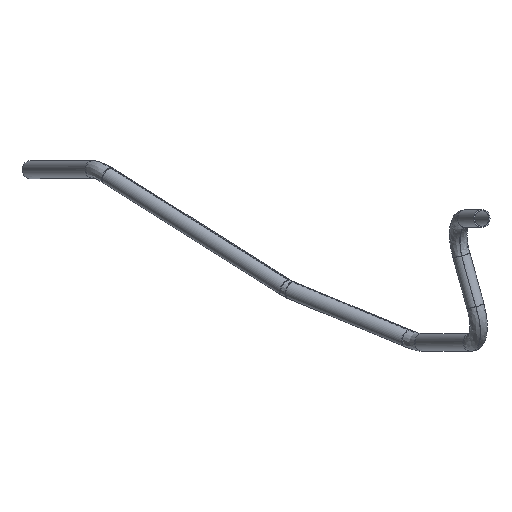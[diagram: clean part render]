
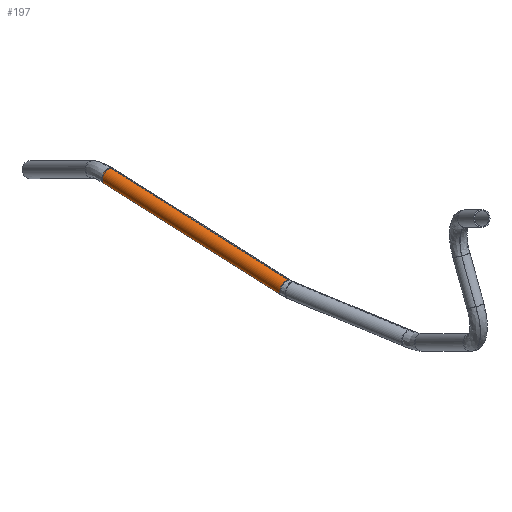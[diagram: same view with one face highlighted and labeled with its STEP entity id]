
A CAD part, top view. The second image highlights one B-rep face of the part: STEP entity #197.
In plain terms, the highlighted cylindrical face has radius 11 mm (diameter 22 mm), a partial arc.
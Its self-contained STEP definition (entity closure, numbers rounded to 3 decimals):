
#170=AXIS2_PLACEMENT_3D('Cylinder Axis2P3D',#167,#168,#169) ;
#188=AXIS2_PLACEMENT_3D('Circle Axis2P3D',#186,#187,$) ;
#136=CARTESIAN_POINT('Vertex',(-1202.854,775.498,-327.605)) ;
#140=CARTESIAN_POINT('Control Point',(-1195.932,795.15,-320.54)) ;
#141=CARTESIAN_POINT('Control Point',(-1223.801,792.756,-286.576)) ;
#142=CARTESIAN_POINT('Control Point',(-1223.71,754.65,-317.687)) ;
#143=CARTESIAN_POINT('Control Point',(-1195.841,757.044,-351.652)) ;
#144=CARTESIAN_POINT('Control Point',(-1168.063,797.543,-354.505)) ;
#145=CARTESIAN_POINT('Control Point',(-1195.932,795.15,-320.54)) ;
#146=CARTESIAN_POINT('Vertex',(-1195.932,795.15,-320.54)) ;
#167=CARTESIAN_POINT('Axis2P3D Location',(-1088.982,715.631,-238.388)) ;
#172=CARTESIAN_POINT('Line Origine',(-1085.521,725.456,-234.856)) ;
#176=CARTESIAN_POINT('Vertex',(-975.111,655.763,-149.172)) ;
#179=CARTESIAN_POINT('Line Origine',(-1092.443,705.805,-241.921)) ;
#183=CARTESIAN_POINT('Vertex',(-982.032,636.111,-156.236)) ;
#186=CARTESIAN_POINT('Axis2P3D Location',(-978.571,645.937,-152.704)) ;
#168=DIRECTION('Axis2P3D Direction',(0.707,-0.446,0.549)) ;
#169=DIRECTION('Axis2P3D XDirection',(0.315,0.893,0.321)) ;
#173=DIRECTION('Vector Direction',(0.707,-0.446,0.549)) ;
#180=DIRECTION('Vector Direction',(0.707,-0.446,0.549)) ;
#187=DIRECTION('Axis2P3D Direction',(0.707,-0.446,0.549)) ;
#174=VECTOR('Line Direction',#173,1.) ;
#181=VECTOR('Line Direction',#180,1.) ;
#192=ORIENTED_EDGE('',*,*,#178,.F.) ;
#193=ORIENTED_EDGE('',*,*,#148,.T.) ;
#194=ORIENTED_EDGE('',*,*,#185,.T.) ;
#195=ORIENTED_EDGE('',*,*,#190,.F.) ;
#197=ADVANCED_FACE('( + ) PartBody',(#196),#171,.T.) ;
#189=CIRCLE('generated circle',#188,11.) ;
#171=CYLINDRICAL_SURFACE('generated cylinder',#170,11.) ;
#148=EDGE_CURVE('',#147,#137,#139,.T.) ;
#178=EDGE_CURVE('',#147,#177,#175,.T.) ;
#185=EDGE_CURVE('',#137,#184,#182,.T.) ;
#190=EDGE_CURVE('',#177,#184,#189,.T.) ;
#191=EDGE_LOOP('',(#192,#193,#194,#195)) ;
#196=FACE_OUTER_BOUND('',#191,.T.) ;
#175=LINE('Line',#172,#174) ;
#182=LINE('Line',#179,#181) ;
#137=VERTEX_POINT('',#136) ;
#147=VERTEX_POINT('',#146) ;
#177=VERTEX_POINT('',#176) ;
#184=VERTEX_POINT('',#183) ;
#139=(BOUNDED_CURVE()B_SPLINE_CURVE(5,(#140,#141,#142,#143,#144,#145),.UNSPECIFIED.,.F.,.U.)B_SPLINE_CURVE_WITH_KNOTS((6,6),(0.,69.115),.UNSPECIFIED.)CURVE()GEOMETRIC_REPRESENTATION_ITEM()RATIONAL_B_SPLINE_CURVE((1.,0.2,0.2,0.2,0.2,1.))REPRESENTATION_ITEM('')) ;
